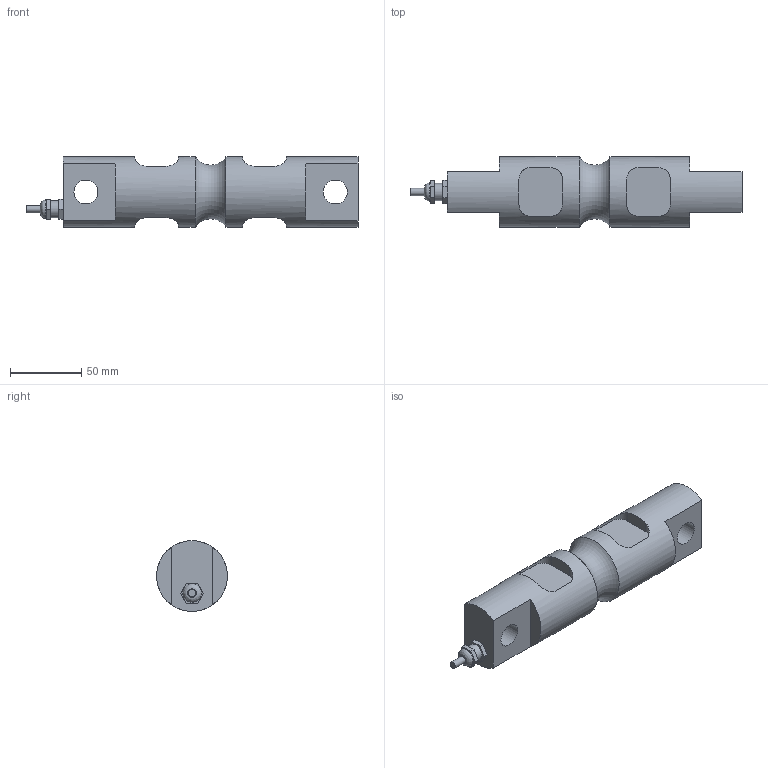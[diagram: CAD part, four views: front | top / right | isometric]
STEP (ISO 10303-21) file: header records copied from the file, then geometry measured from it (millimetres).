
FILE_DESCRIPTION(/* description */ (''),/* implementation_level */ '2;1');
FILE_NAME(/* name */ 'C:/Users/fardi/Dropbox/Anyload/Load Cell Models/3D Drawing/102/102DH/102DH-(5-20)klb v2.step',/* time_stamp */ '2020-01-24T13:16:48-08:00',/* author */ (''),/* organization */ (''),/* preprocessor_version */ 'ST-DEVELOPER v18',/* originating_system */ 'Autodesk Translation Framework v8.12.0.6',/* authorisation */ '');
FILE_SCHEMA (('AUTOMOTIVE_DESIGN { 1 0 10303 214 3 1 1 }'));
Length unit declared in the file: inch
Products named in the file (2): 102DH-(5-20)klb; Connector
Assembly tree (1 placements, depth 2):
  102DH-(5-20)klb
    Connector
Bounding box: 232.28 x 49.53 x 49.53 mm (x, y, z)
Volume: 303430.8 mm3; surface area: 40566.8 mm2
Topology: 2 solids, 2 shells, 77 faces, 196 edges, 130 vertices
Faces by surface type: plane 49, cylinder 25, bspline 1, cone 1, torus 1
Full cylindrical faces by diameter (mm): 5.1 x1, 10 x1, 12 x2, 13 x1, 16.764 x2, 49.53 x2
Entity records: 2526 total; most frequent: CARTESIAN_POINT 575, DIRECTION 396, ORIENTED_EDGE 390, EDGE_CURVE 195, AXIS2_PLACEMENT_3D 138, VERTEX_POINT 130, LINE 120, VECTOR 120
